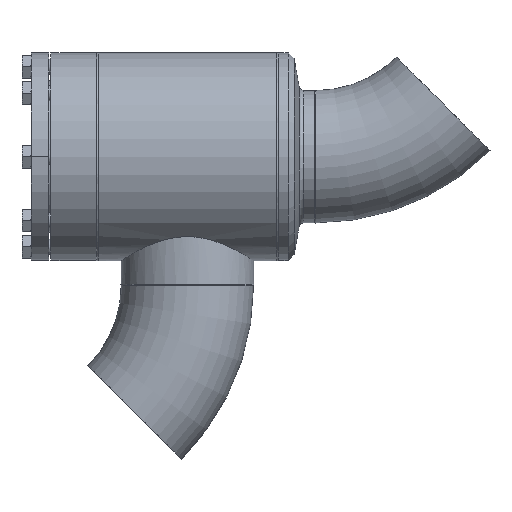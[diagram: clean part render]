
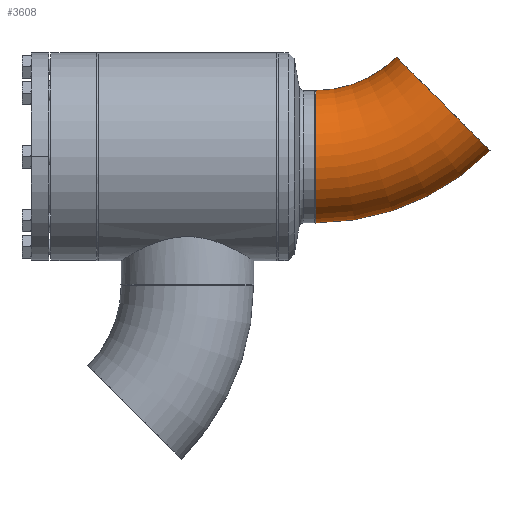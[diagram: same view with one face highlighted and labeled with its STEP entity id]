
A CAD part, left-side view. The second image highlights one B-rep face of the part: STEP entity #3608.
In plain terms, the highlighted toroidal (fillet/blend) face has major radius 190 mm and minor radius 69.85 mm.
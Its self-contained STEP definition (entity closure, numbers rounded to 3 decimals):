
#213 = CIRCLE ( 'NONE', #214, 259.85 ) ;
#214 = AXIS2_PLACEMENT_3D ( 'NONE', #215, #216, #217 ) ;
#215 = CARTESIAN_POINT ( 'NONE',  ( 0., -190., 0. ) ) ;
#216 = DIRECTION ( 'NONE',  ( 0., 0., 1. ) ) ;
#217 = DIRECTION ( 'NONE',  ( 1., 0., 0. ) ) ;
#628 = EDGE_CURVE ( 'NONE', #3818, #1467, #4702, .T. ) ;
#1033 = CARTESIAN_POINT ( 'NONE',  ( 84.959, -105.041, 0. ) ) ;
#1420 = CARTESIAN_POINT ( 'NONE',  ( 183.742, -6.258, 0. ) ) ;
#1421 = CIRCLE ( 'NONE', #1422, 69.85 ) ;
#1422 = AXIS2_PLACEMENT_3D ( 'NONE', #1423, #1424, #1425 ) ;
#1423 = CARTESIAN_POINT ( 'NONE',  ( 134.35, -55.65, 0. ) ) ;
#1424 = DIRECTION ( 'NONE',  ( 0.707, -0.707, 0. ) ) ;
#1425 = DIRECTION ( 'NONE',  ( 0., 0., -1. ) ) ;
#1467 = VERTEX_POINT ( 'NONE', #6063 ) ;
#3384 = EDGE_CURVE ( 'NONE', #1467, #3735, #7556, .T. ) ;
#3406 = ORIENTED_EDGE ( 'NONE', *, *, #3384, .T. ) ;
#3447 = ORIENTED_EDGE ( 'NONE', *, *, #628, .T. ) ;
#3482 = EDGE_CURVE ( 'NONE', #3818, #3835, #1421, .T. ) ;
#3512 = ORIENTED_EDGE ( 'NONE', *, *, #3482, .F. ) ;
#3546 = ORIENTED_EDGE ( 'NONE', *, *, #3753, .F. ) ;
#3583 = EDGE_LOOP ( 'NONE', ( #3546, #3512, #3447, #3406 ) ) ;
#3608 = ADVANCED_FACE ( 'NONE', ( #5196 ), #5197, .T. ) ;
#3735 = VERTEX_POINT ( 'NONE', #7643 ) ;
#3753 = EDGE_CURVE ( 'NONE', #3835, #3735, #213, .T. ) ;
#3818 = VERTEX_POINT ( 'NONE', #1033 ) ;
#3835 = VERTEX_POINT ( 'NONE', #1420 ) ;
#4702 = CIRCLE ( 'NONE', #4703, 120.15 ) ;
#4703 = AXIS2_PLACEMENT_3D ( 'NONE', #4704, #4705, #4706 ) ;
#4704 = CARTESIAN_POINT ( 'NONE',  ( 0., -190., 0. ) ) ;
#4705 = DIRECTION ( 'NONE',  ( 0., 0., 1. ) ) ;
#4706 = DIRECTION ( 'NONE',  ( 1., 0., 0. ) ) ;
#5196 = FACE_OUTER_BOUND ( 'NONE', #3583, .T. ) ;
#5197 = TOROIDAL_SURFACE ( 'NONE', #5198, 190., 69.85 ) ;
#5198 = AXIS2_PLACEMENT_3D ( 'NONE', #5199, #5200, #5201 ) ;
#5199 = CARTESIAN_POINT ( 'NONE',  ( 0., -190., 0. ) ) ;
#5200 = DIRECTION ( 'NONE',  ( 0., 0., 1. ) ) ;
#5201 = DIRECTION ( 'NONE',  ( 1., 0., 0. ) ) ;
#6063 = CARTESIAN_POINT ( 'NONE',  ( 0., -69.85, 0. ) ) ;
#7556 = CIRCLE ( 'NONE', #7557, 69.85 ) ;
#7557 = AXIS2_PLACEMENT_3D ( 'NONE', #7558, #7559, #7560 ) ;
#7558 = CARTESIAN_POINT ( 'NONE',  ( 0., 0., 0. ) ) ;
#7559 = DIRECTION ( 'NONE',  ( 1., 0., 0. ) ) ;
#7560 = DIRECTION ( 'NONE',  ( 0., 0., -1. ) ) ;
#7643 = CARTESIAN_POINT ( 'NONE',  ( 0., 69.85, 0. ) ) ;
